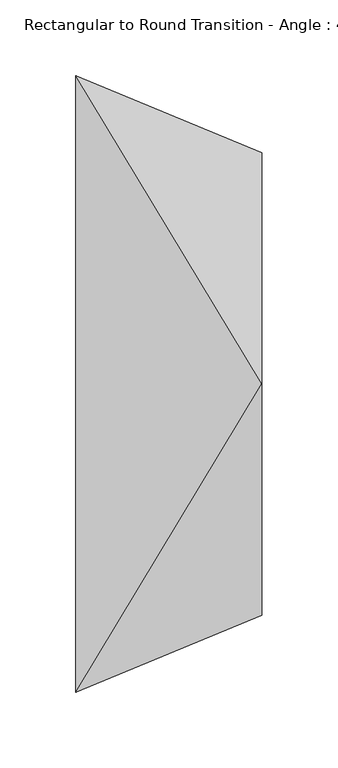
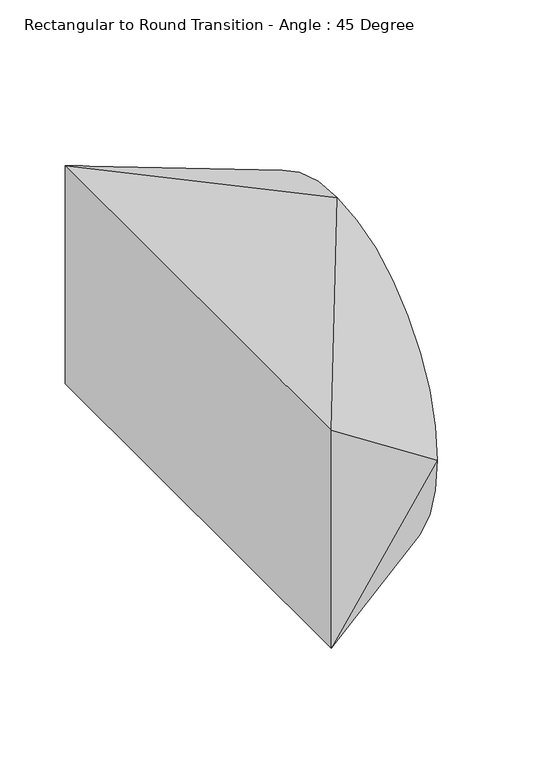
"""IFC4 building model written with IfcOpenShell, lengths in millimetres: duct fitting geometry, Rectangular to Round Transition - Angle : 45 Degree."""

from ifc_helpers import new_model, si_unit, frame, origin, place, context, project, spatial, circle_curve, source, transform, mapped, element, save
from ifc_brep_helpers import plane_surface, spline_surface, advanced_brep


def rectangular_to_round_transition_angle_45_degree_a6b6a24c(model_context):
    return source(origin(), model_context, "Body", "AdvancedBrep", [
        advanced_brep(
        [(122.642049, 0.0, 152.4), (122.642049, -152.4, 0.0), (122.642049, 0.0, -152.4), (122.642049, 152.4, 0.0), (0.0, -203.2, 101.6), (0.0, 203.2, 101.6), (0.0, 203.2, -101.6), (0.0, -203.2, -101.6)],
        [
            (0, 1, circle_curve(frame((122.642049, 0.0, 0.0), z_axis=(1.0, 0.0, 0.0), x_axis=(0.0, 1.0, 0.0)), 152.4)),
            (1, 2, circle_curve(frame((122.642049, 0.0, 0.0), z_axis=(1.0, 0.0, 0.0), x_axis=(0.0, 1.0, 0.0)), 152.4)),
            (2, 3, circle_curve(frame((122.642049, 0.0, 0.0), z_axis=(1.0, 0.0, 0.0), x_axis=(0.0, 1.0, 0.0)), 152.4)),
            (3, 0, circle_curve(frame((122.642049, 0.0, 0.0), z_axis=(1.0, 0.0, 0.0), x_axis=(0.0, 1.0, 0.0)), 152.4)),
            (4, 5),
            (5, 6),
            (6, 7),
            (7, 4),
            (0, 4),
            (4, 1),
            (7, 1),
            (7, 2),
            (6, 2),
            (6, 3),
            (5, 3),
            (5, 0),
        ],
        [
            plane_surface(frame((122.642049, 0.0, 0.0), z_axis=(1.0, 0.0, 0.0), x_axis=(0.0, 0.0, -1.0))),
            plane_surface(frame((0.0, 0.0, 0.0), z_axis=(-1.0, 0.0, 0.0), x_axis=(0.0, 0.0, -1.0))),
            spline_surface(2, 1, [[(0.0, -203.2, 101.6), (122.642049, 0.0, 152.4)], [(0.0, -203.2, 101.6), (122.642049, -152.4, 152.4)], [(0.0, -203.2, 101.6), (122.642049, -152.4, 0.0)]], [3, 3], [2, 2], [0.0, 1.0], [0.0, 1.0], weights=[[1.0, 1.0], [0.7071067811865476, 0.7071067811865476], [1.0, 1.0]]),
            plane_surface(frame((0.0, -203.2, 0.0), z_axis=(0.3826834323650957, -0.9238795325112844, 0.0), x_axis=(0.0, 0.0, -1.0))),
            spline_surface(2, 1, [[(0.0, -203.2, -101.6), (122.642049, -152.4, 0.0)], [(0.0, -203.2, -101.6), (122.642049, -152.4, -152.4)], [(0.0, -203.2, -101.6), (122.642049, 0.0, -152.4)]], [3, 3], [2, 2], [0.0, 1.0], [0.0, 1.0], weights=[[1.0, 1.0], [0.7071067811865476, 0.7071067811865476], [1.0, 1.0]]),
            plane_surface(frame((0.0, 0.0, -101.6), z_axis=(-0.38268343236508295, 0.0, -0.9238795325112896), x_axis=(0.0, 1.0, 0.0))),
            spline_surface(2, 1, [[(0.0, 203.2, -101.6), (122.642049, 0.0, -152.4)], [(0.0, 203.2, -101.6), (122.642049, 152.4, -152.4)], [(0.0, 203.2, -101.6), (122.642049, 152.4, 0.0)]], [3, 3], [2, 2], [0.0, 1.0], [0.0, 1.0], weights=[[1.0, 1.0], [0.7071067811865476, 0.7071067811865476], [1.0, 1.0]]),
            plane_surface(frame((0.0, 203.2, 0.0), z_axis=(0.3826834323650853, 0.9238795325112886, 0.0), x_axis=(0.0, 0.0, 1.0))),
            spline_surface(2, 1, [[(0.0, 203.2, 101.6), (122.642049, 152.4, 0.0)], [(0.0, 203.2, 101.6), (122.642049, 152.4, 152.4)], [(0.0, 203.2, 101.6), (122.642049, 0.0, 152.4)]], [3, 3], [2, 2], [0.0, 1.0], [0.0, 1.0], weights=[[1.0, 1.0], [0.7071067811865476, 0.7071067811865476], [1.0, 1.0]]),
            plane_surface(frame((0.0, 0.0, 101.6), z_axis=(-0.38268343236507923, 0.0, 0.9238795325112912), x_axis=(0.0, -1.0, 0.0))),
        ],
        [
            (0, [[1, 2, 3, 4]]),
            (1, [[5, 6, 7, 8]]),
            (2, [[-1, 9, 10]]),
            (3, [[-8, 11, -10]]),
            (4, [[-2, -11, 12]]),
            (5, [[-7, 13, -12]]),
            (6, [[-3, -13, 14]]),
            (7, [[-6, 15, -14]]),
            (8, [[-4, -15, 16]]),
            (9, [[-5, -9, -16]]),
        ],
    ),
    ])


if __name__ == "__main__":
    model = new_model("IFC4")
    model_context = context("Model", 3, world=origin())
    ifc_project = project(units=[si_unit("LENGTHUNIT", "METRE", prefix="MILLI")], contexts=[model_context])
    site = spatial("IfcSite", under=ifc_project)
    building = spatial("IfcBuilding", under=site)
    placement = place(None, origin())
    rectangular_to_round_transition_angle_45_degree_shape = rectangular_to_round_transition_angle_45_degree_a6b6a24c(model_context)
    element("IfcDuctFitting", 1, ObjectType="Rectangular to Round Transition - Angle : 45 Degree", at=placement, inside=building, context=model_context, shape_type="MappedRepresentation", body=[
        mapped(rectangular_to_round_transition_angle_45_degree_shape, transform((0.0, 0.0, 0.0), x_axis=(1.0, 0.0, 0.0), y_axis=(0.0, 1.0, 0.0), z_axis=(0.0, 0.0, 1.0))),
    ])
    save(model, "model.ifc")
